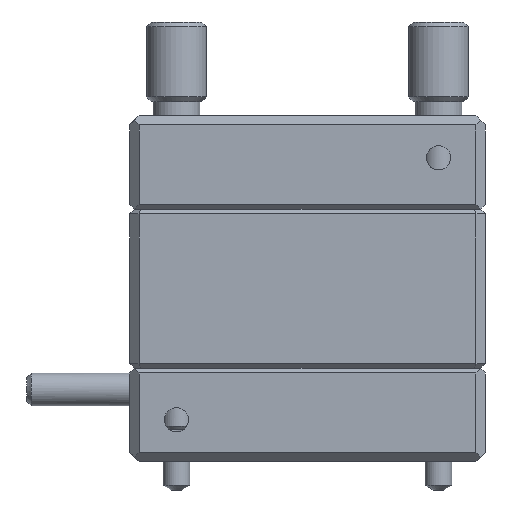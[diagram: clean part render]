
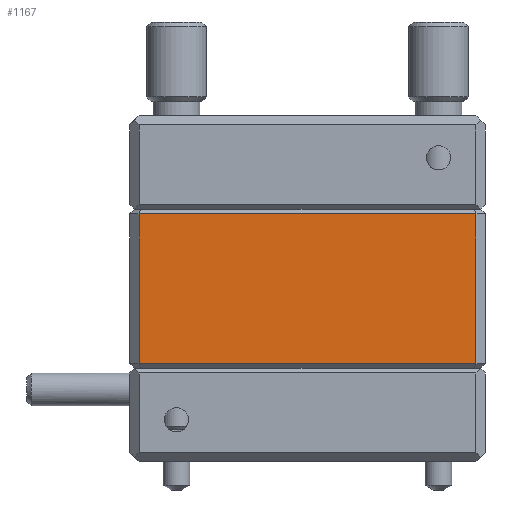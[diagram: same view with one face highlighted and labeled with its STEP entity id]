
A CAD part, left-side view. The second image highlights one B-rep face of the part: STEP entity #1167.
In plain terms, the highlighted planar face has unit normal (-1, 0, 0).
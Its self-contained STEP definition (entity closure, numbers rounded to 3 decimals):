
#1167=ADVANCED_FACE('',(#2146),#1757,.T.);
#1757=PLANE('',#11453);
#2146=FACE_OUTER_BOUND('',#2650,.T.);
#2650=EDGE_LOOP('',(#5628,#5629,#5630,#5631));
#3446=LINE('',#14963,#4429);
#3447=LINE('',#14966,#4430);
#3448=LINE('',#14968,#4431);
#3449=LINE('',#14970,#4432);
#4429=VECTOR('',#12121,1.);
#4430=VECTOR('',#12122,1.);
#4431=VECTOR('',#12123,1.);
#4432=VECTOR('',#12124,1.);
#5628=ORIENTED_EDGE('',*,*,#9915,.T.);
#5629=ORIENTED_EDGE('',*,*,#9916,.T.);
#5630=ORIENTED_EDGE('',*,*,#9917,.T.);
#5631=ORIENTED_EDGE('',*,*,#9918,.T.);
#8782=VERTEX_POINT('',#14964);
#8783=VERTEX_POINT('',#14965);
#8784=VERTEX_POINT('',#14967);
#8785=VERTEX_POINT('',#14969);
#9915=EDGE_CURVE('',#8782,#8783,#3446,.T.);
#9916=EDGE_CURVE('',#8783,#8784,#3447,.T.);
#9917=EDGE_CURVE('',#8784,#8785,#3448,.T.);
#9918=EDGE_CURVE('',#8785,#8782,#3449,.T.);
#11453=AXIS2_PLACEMENT_3D('',#14971,#12125,#12126);
#12121=DIRECTION('',(0.,0.,1.));
#12122=DIRECTION('',(0.,1.,0.));
#12123=DIRECTION('',(0.,0.,-1.));
#12124=DIRECTION('',(0.,-1.,0.));
#12125=DIRECTION('',(-1.,0.,0.));
#12126=DIRECTION('',(0.,0.,1.));
#14963=CARTESIAN_POINT('',(0.,1.,0.));
#14964=CARTESIAN_POINT('',(0.,1.,0.5));
#14965=CARTESIAN_POINT('',(0.,1.,16.5));
#14966=CARTESIAN_POINT('',(0.,19.,16.5));
#14967=CARTESIAN_POINT('',(0.,37.,16.5));
#14968=CARTESIAN_POINT('',(0.,37.,0.));
#14969=CARTESIAN_POINT('',(0.,37.,0.5));
#14970=CARTESIAN_POINT('',(0.,19.,0.5));
#14971=CARTESIAN_POINT('',(0.,19.,0.));
